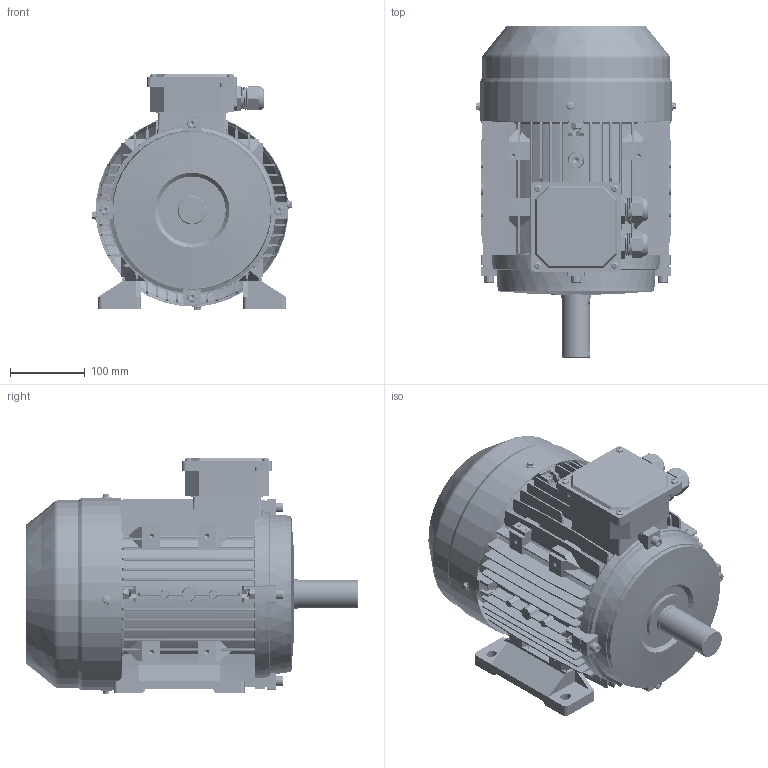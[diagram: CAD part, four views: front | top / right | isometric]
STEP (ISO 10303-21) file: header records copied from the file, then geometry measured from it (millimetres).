
FILE_DESCRIPTION (( 'STEP AP203' ), '1' );
FILE_NAME ('MS132S B3 3D.STEP', '2024-10-24T05:30:48', ( 'User' ), ( 'China' ), 'SwSTEP 2.0', 'SolidWorks 2018', '' );
FILE_SCHEMA (( 'CONFIG_CONTROL_DESIGN' ));
Length unit declared in the file: millimetre
Products named in the file (20): MS132S  B3   3D; MS132邧脯瑞欶; deep groove ball bearings gb_Rolling bearings 6208 GB 276-94; hex flange bolts-heavy grade b gb_GB_FASTENER_BOLT_HFBB M5X10-S; MS132S蛌粣ㄗ430ㄘ; cross recessed pan head screws gb_GB_CROSS_SCREWS_TYPE1 M5X6-6  H type-S; deep groove ball bearings gb_Rolling bearings 6308 GB 276-94; M24 蹟杶; MS132B3ヶ傷裔; M24 蹟杶簸; MS112-132 諉盄碟釱; MS112-132諉盄碟裔; hexagon socket head cap screws gb_GB_FASTENER_SCREWS_HSHCS M8X40-S; MS132S儂褲(204); hexagon socket head cap screws gb_GB_FASTENER_SCREWS_HSHCS M8X25-S; wave single coil spring lock washers gb_GB_FASTENER_WASHER_WSLW 8; MS132S菁褐; 蚐猾40X58X7; hex nuts, style 2-grades ab gb_GB_HEXAGON_TYPE13 M8 Normal Style-S; MS132B3綴傷裔
Assembly tree (59 placements, depth 2):
  MS132S  B3   3D
    MS132S儂褲(204)
    MS132S菁褐  x2
    MS132B3綴傷裔
    deep groove ball bearings gb_Rolling bearings 6208 GB 276-94
    MS132S蛌粣ㄗ430ㄘ
    deep groove ball bearings gb_Rolling bearings 6308 GB 276-94
    MS132B3ヶ傷裔
    MS112-132 諉盄碟釱
    hexagon socket head cap screws gb_GB_FASTENER_SCREWS_HSHCS M8X40-S  x7
    wave single coil spring lock washers gb_GB_FASTENER_WASHER_WSLW 8  x12
    hex nuts, style 2-grades ab gb_GB_HEXAGON_TYPE13 M8 Normal Style-S  x7
    MS132邧脯瑞欶
    hex flange bolts-heavy grade b gb_GB_FASTENER_BOLT_HFBB M5X10-S  x4
    cross recessed pan head screws gb_GB_CROSS_SCREWS_TYPE1 M5X6-6  H type-S  x8
    M24 蹟杶  x2
    M24 蹟杶簸  x2
    MS112-132諉盄碟裔
    hexagon socket head cap screws gb_GB_FASTENER_SCREWS_HSHCS M8X25-S  x5
    蚐猾40X58X7
Bounding box: 267.66 x 443.59 x 316.33 mm (x, y, z)
Volume: 3361305.9 mm3; surface area: 1469430.6 mm2
Topology: 59 solids, 59 shells, 7681 faces, 18558 edges, 10924 vertices
Faces by surface type: cone 2916, plane 2277, cylinder 2160, torus 194, sphere 80, bspline 54
Entity records: 129931 total; most frequent: CARTESIAN_POINT 35560, ORIENTED_EDGE 19674, DIRECTION 18216, EDGE_CURVE 9837, VERTEX_POINT 6239, AXIS2_PLACEMENT_3D 6231, VECTOR 5754, LINE 5754
